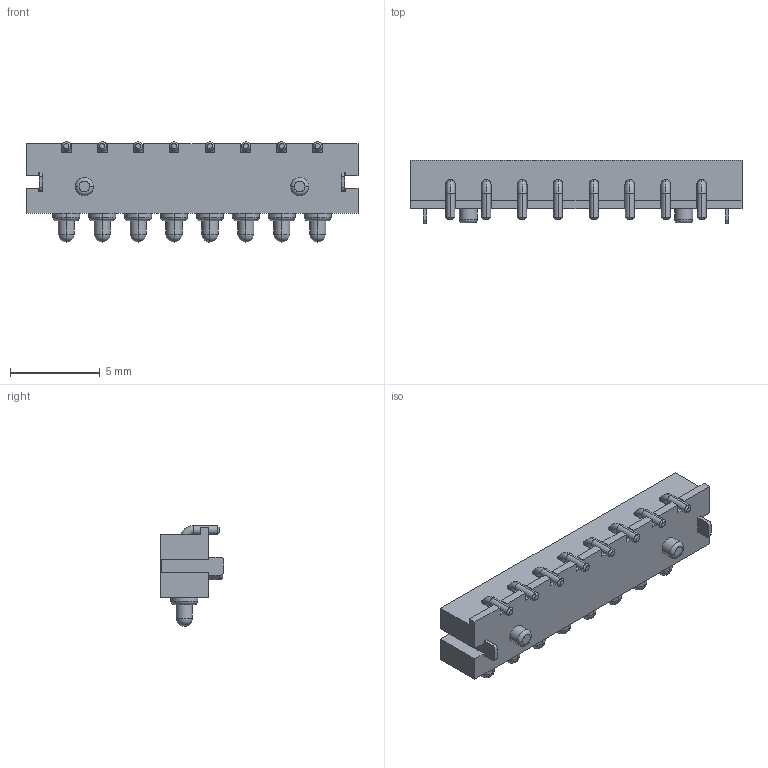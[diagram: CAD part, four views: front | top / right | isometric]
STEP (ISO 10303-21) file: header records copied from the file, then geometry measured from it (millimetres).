
FILE_DESCRIPTION((''),'2;1');
FILE_NAME('H519_08A_1007_NEW_2_1','2022-05-25T16:00:45',('Administrator'),(''),'CREO PARAMETRIC BY PTC INC, 2018400','CREO PARAMETRIC BY PTC INC, 2018400','');
FILE_SCHEMA(('CONFIG_CONTROL_DESIGN'));
Length unit declared in the file: millimetre
Products named in the file (1): H519_08A_1007_NEW_2_1
Bounding box: 18.5 x 3.55 x 5.59 mm (x, y, z)
Volume: 187 mm3; surface area: 528.2 mm2
Topology: 1 solids, 9 shells, 462 faces, 1218 edges, 768 vertices
Faces by surface type: plane 226, cylinder 152, torus 36, cone 32, sphere 16
Entity records: 14344 total; most frequent: DIRECTION 2574, CARTESIAN_POINT 2568, ORIENTED_EDGE 2404, EDGE_CURVE 1202, AXIS2_PLACEMENT_3D 942, VERTEX_POINT 768, VECTOR 690, LINE 690
